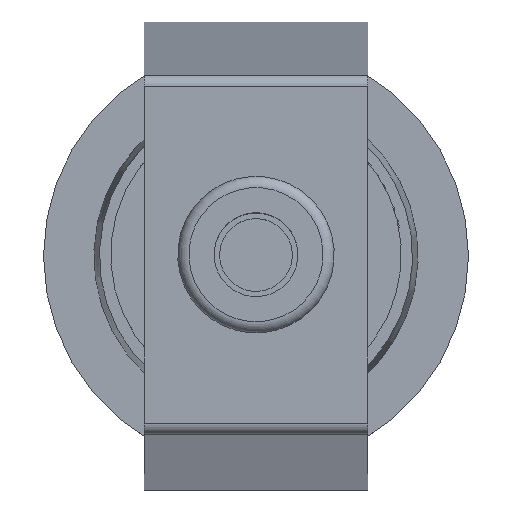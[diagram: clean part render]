
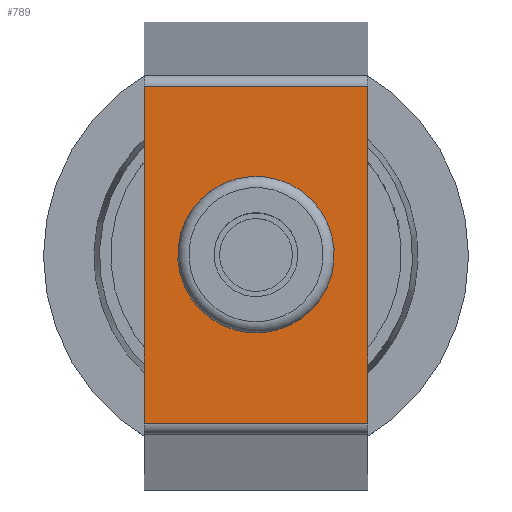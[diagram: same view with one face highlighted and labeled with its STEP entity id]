
A CAD part, top view. The second image highlights one B-rep face of the part: STEP entity #789.
In plain terms, the highlighted planar face has unit normal (0, 0, 1) as drawn and (0, 1, 0) by its records, which use the part's own axes.
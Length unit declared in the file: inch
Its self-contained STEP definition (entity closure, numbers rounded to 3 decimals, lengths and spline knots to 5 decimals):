
#225=CARTESIAN_POINT('',(0.77463,9.00057,0.0));
#226=VERTEX_POINT('',#225);
#227=CARTESIAN_POINT('',(-0.00662,9.00057,0.0));
#228=DIRECTION('',(0.0,-1.0,0.0));
#229=DIRECTION('',(1.0,0.0,0.0));
#230=AXIS2_PLACEMENT_3D('',#227,#228,#229);
#231=CIRCLE('',#230,0.78125);
#232=EDGE_CURVE('',#226,#226,#231,.T.);
#592=CARTESIAN_POINT('',(-1.89,9.00057,-1.25));
#593=VERTEX_POINT('',#592);
#601=CARTESIAN_POINT('',(1.87676,9.00057,-1.25));
#602=VERTEX_POINT('',#601);
#603=CARTESIAN_POINT('',(1.87676,9.00057,-1.25));
#604=DIRECTION('',(-1.0,0.0,0.0));
#605=VECTOR('',#604,3.76676);
#606=LINE('',#603,#605);
#607=EDGE_CURVE('',#602,#593,#606,.T.);
#738=CARTESIAN_POINT('',(-1.89,9.00057,1.25));
#739=VERTEX_POINT('',#738);
#747=CARTESIAN_POINT('',(-1.89,9.00057,1.25));
#748=DIRECTION('',(0.0,0.0,-1.0));
#749=VECTOR('',#748,2.5);
#750=LINE('',#747,#749);
#751=EDGE_CURVE('',#739,#593,#750,.T.);
#763=CARTESIAN_POINT('',(-2.00661,9.00057,0.0));
#764=DIRECTION('',(0.0,1.0,0.0));
#765=DIRECTION('',(0.0,0.0,1.0));
#766=AXIS2_PLACEMENT_3D('',#763,#764,#765);
#767=PLANE('',#766);
#768=ORIENTED_EDGE('',*,*,#751,.F.);
#769=CARTESIAN_POINT('',(1.87676,9.00057,1.25));
#770=VERTEX_POINT('',#769);
#771=CARTESIAN_POINT('',(-1.89,9.00057,1.25));
#772=DIRECTION('',(1.0,0.0,0.0));
#773=VECTOR('',#772,3.76676);
#774=LINE('',#771,#773);
#775=EDGE_CURVE('',#739,#770,#774,.T.);
#776=ORIENTED_EDGE('',*,*,#775,.T.);
#777=CARTESIAN_POINT('',(1.87676,9.00057,-1.25));
#778=DIRECTION('',(0.0,0.0,1.0));
#779=VECTOR('',#778,2.5);
#780=LINE('',#777,#779);
#781=EDGE_CURVE('',#602,#770,#780,.T.);
#782=ORIENTED_EDGE('',*,*,#781,.F.);
#783=ORIENTED_EDGE('',*,*,#607,.T.);
#784=EDGE_LOOP('',(#768,#776,#782,#783));
#785=FACE_OUTER_BOUND('',#784,.T.);
#786=ORIENTED_EDGE('',*,*,#232,.T.);
#787=EDGE_LOOP('',(#786));
#788=FACE_BOUND('',#787,.T.);
#789=ADVANCED_FACE('',(#785,#788),#767,.T.);
